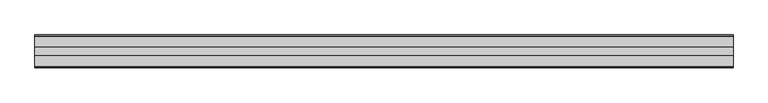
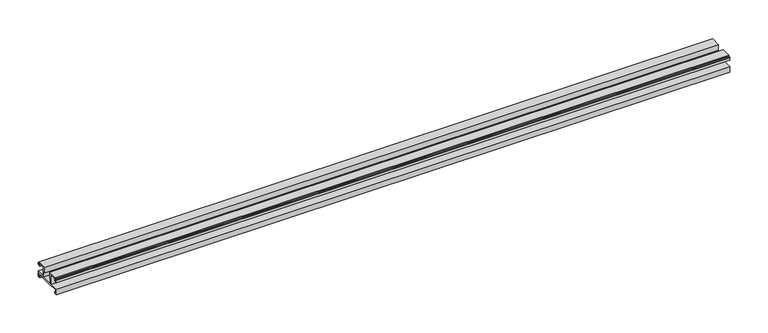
"""IFC4 building model written with IfcOpenShell, lengths in millimetres: proxy geometry, Weiku - Montante - Acoplamento vidro : Weiku - Montante - Acoplamento vidro."""

from ifc_helpers import new_model, si_unit, frame, origin, place, context, project, spatial, polyline, outline, extrude, source, transform, mapped, element, save


def generic_models_1a6fea01(model_context):
    return source(origin(), model_context, "Body", "SweptSolid", [
        extrude(outline(polyline([(-35.405, 5.1494), (-35.405, 6.8004), (-45.741, 6.8004), (-45.741, 2.6094), (-43.8784, 2.6094), (-43.8784, 0.0), (-47.9014508, 0.0), (-47.9014508, 8.79), (-34.946, 8.79), (-34.946, 23.3104), (-43.5397, 23.3104), (-43.5397, 19.204), (-47.9, 19.204), (-47.9, 22.8024), (-46.9264, 22.8024), (-46.9264, 20.3894), (-44.725, 20.3894), (-44.725, 23.9454), (-45.5264504, 23.9454), (-45.5264504, 25.3), (-30.4164, 25.3), (-30.4164, 16.283), (-32.4484, 16.283), (-32.4484, 8.8), (-15.4516, 8.8), (-15.4516, 16.283), (-17.4836, 16.283), (-17.4836, 25.3), (-2.3735496, 25.3), (-2.3735496, 23.9454), (-3.175, 23.9454), (-3.175, 20.3894), (-0.9736, 20.3894), (-0.9736, 22.8024), (0.0, 22.8024), (0.0, 19.204), (-4.3603, 19.204), (-4.3603, 23.3104), (-12.954, 23.3104), (-12.954, 8.79), (0.0014508, 8.79), (0.0014508, 0.0), (-4.0216, 0.0), (-4.0216, 2.6094), (-2.159, 2.6094), (-2.159, 6.8004), (-12.495, 6.8004), (-12.495, 5.1494), (-35.405, 5.1494)])), frame((-510.4, 0.0, 0.0), z_axis=(1.0, 0.0, 0.0), x_axis=(0.0, 1.0, 0.0)), (0.0, 0.0, 1.0), 1020.8),
    ])


if __name__ == "__main__":
    model = new_model("IFC4")
    model_context = context("Model", 3, world=origin())
    ifc_project = project(units=[si_unit("LENGTHUNIT", "METRE", prefix="MILLI")], contexts=[model_context])
    site = spatial("IfcSite", under=ifc_project)
    building = spatial("IfcBuilding", under=site)
    placement = place(None, origin())
    generic_models_shape = generic_models_1a6fea01(model_context)
    element("IfcBuildingElementProxy", 1, Name="Weiku - Montante - Acoplamento vidro : Weiku - Montante - Acoplamento vidro", ObjectType="Weiku - Montante - Acoplamento vidro : Weiku - Montante - Acoplamento vidro", at=placement, inside=building, context=model_context, shape_type="MappedRepresentation", body=[
        mapped(generic_models_shape, transform((0.0, 0.0, 0.0), x_axis=(1.0, 0.0, 0.0), y_axis=(0.0, 1.0, 0.0), z_axis=(0.0, 0.0, 1.0))),
    ])
    save(model, "model.ifc")
